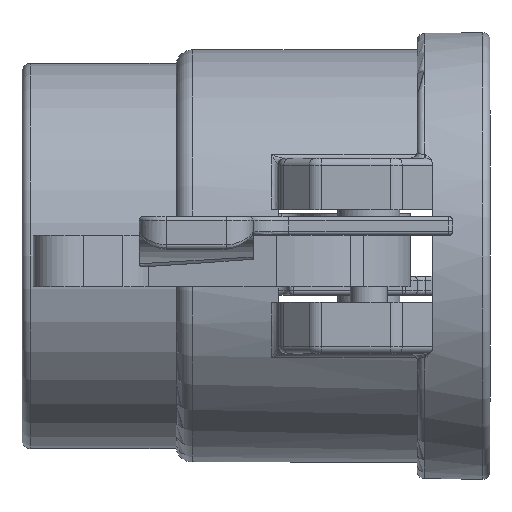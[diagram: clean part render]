
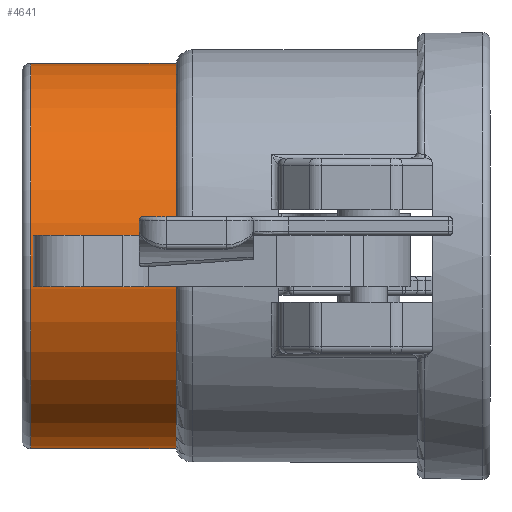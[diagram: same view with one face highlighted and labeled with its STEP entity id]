
A CAD part, front view. The second image highlights one B-rep face of the part: STEP entity #4641.
In plain terms, the highlighted cylindrical face has radius 34.29 mm (diameter 68.58 mm), a full revolution.
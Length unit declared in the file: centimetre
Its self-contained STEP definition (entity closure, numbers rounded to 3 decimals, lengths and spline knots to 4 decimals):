
#314=CYLINDRICAL_SURFACE('',#5043,3.429);
#1234=VERTEX_POINT('',#6599);
#1256=VERTEX_POINT('',#6776);
#1630=CIRCLE('',#5031,3.429);
#1639=CIRCLE('',#5042,3.429);
#2055=EDGE_CURVE('',#1234,#1234,#1630,.T.);
#2077=EDGE_CURVE('',#1256,#1256,#1639,.T.);
#3017=ORIENTED_EDGE('',*,*,#2055,.F.);
#3018=ORIENTED_EDGE('',*,*,#2077,.F.);
#4010=EDGE_LOOP('',(#3017));
#4011=EDGE_LOOP('',(#3018));
#4338=FACE_BOUND('',#4010,.T.);
#4339=FACE_BOUND('',#4011,.T.);
#4641=ADVANCED_FACE('',(#4338,#4339),#314,.T.);
#5031=AXIS2_PLACEMENT_3D('',#6598,#32751,#32752);
#5042=AXIS2_PLACEMENT_3D('',#6775,#32780,#32781);
#5043=AXIS2_PLACEMENT_3D('',#6777,#32782,#32783);
#6598=CARTESIAN_POINT('',(-5.588,0.,0.));
#6599=CARTESIAN_POINT('',(-5.588,0.,3.429));
#6775=CARTESIAN_POINT('',(-8.1788,0.,0.));
#6776=CARTESIAN_POINT('',(-8.1788,0.,3.429));
#6777=CARTESIAN_POINT('',(-5.588,0.,0.));
#32751=DIRECTION('',(1.,0.,0.));
#32752=DIRECTION('',(0.,0.,3.429));
#32780=DIRECTION('',(-1.,0.,0.));
#32781=DIRECTION('',(0.,0.,-3.429));
#32782=DIRECTION('',(-1.,0.,0.));
#32783=DIRECTION('',(0.,0.,3.429));
